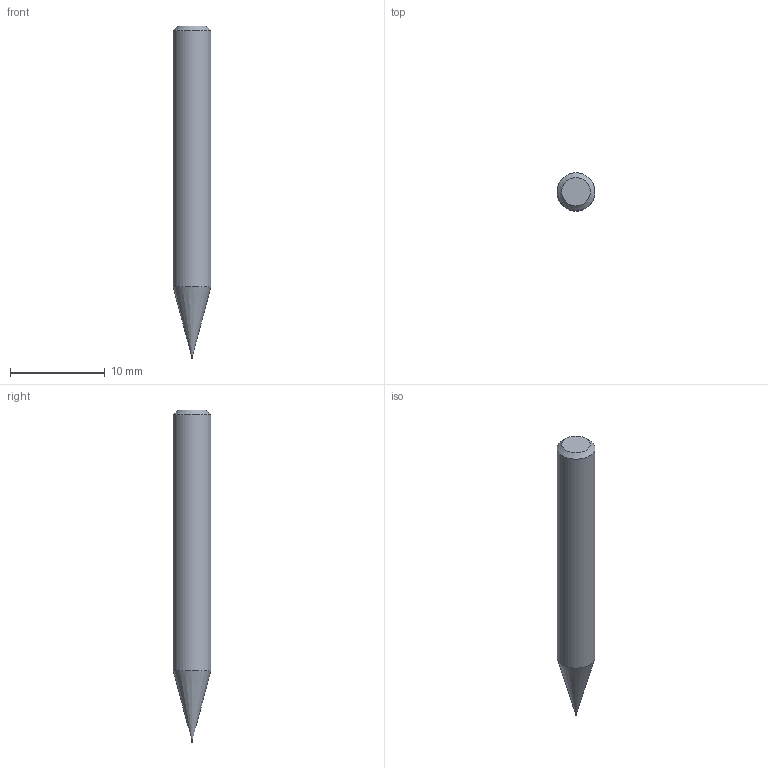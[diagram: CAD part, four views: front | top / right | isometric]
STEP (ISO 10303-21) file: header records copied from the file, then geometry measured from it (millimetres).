
FILE_DESCRIPTION((''),'2;1');
FILE_NAME('C:\Users\nsx150\AppData\Local\Temp\Mastercam 2021\80JYEHYUML\TEMP.step','2022-03-29T14:34:30',(''),(''),'STEP Write','Mastercam 2021 ... CNC Software, Inc.','');
FILE_SCHEMA(('AUTOMOTIVE_DESIGN'));
Length unit declared in the file: millimetre
Products named in the file (1): None
Bounding box: 4 x 4 x 35 mm (x, y, z)
Volume: 375.3 mm3; surface area: 402.7 mm2
Topology: 2 solids, 2 shells, 10 faces, 14 edges, 8 vertices
Faces by surface type: plane 4, cylinder 3, cone 2, torus 1
Full cylindrical faces by diameter (mm): 0.135 x1, 0.15 x1, 4 x1
Entity records: 232 total; most frequent: DIRECTION 40, CARTESIAN_POINT 28, AXIS2_PLACEMENT_3D 20, ORIENTED_EDGE 16, EDGE_LOOP 16, STYLED_ITEM 13, ADVANCED_FACE 10, FACE_BOUND 10
